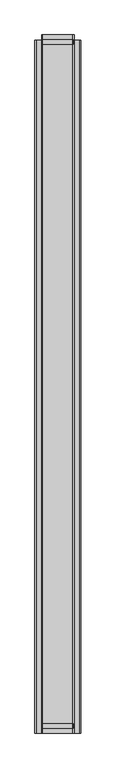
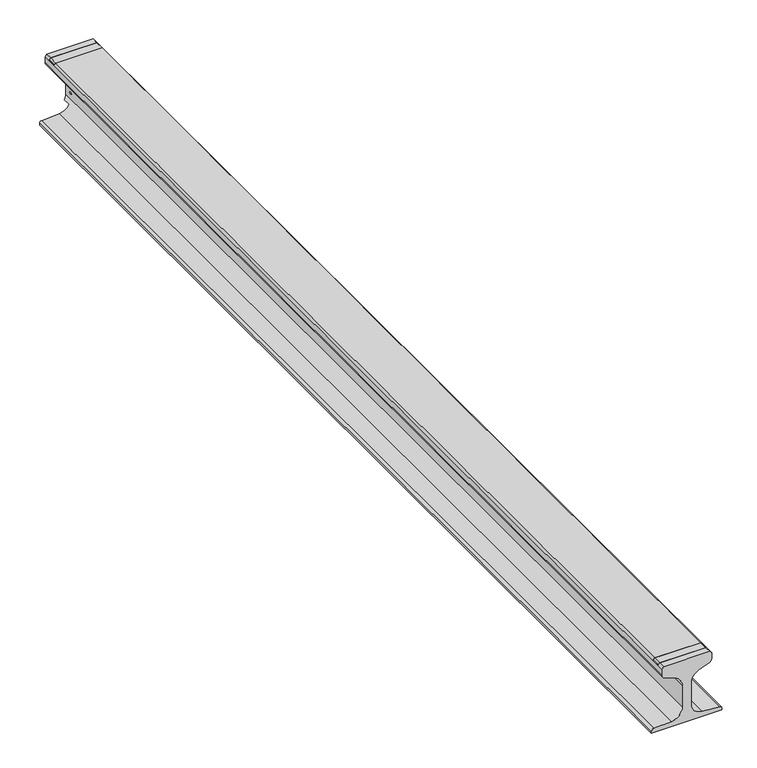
"""IFC4 building model written with IfcOpenShell, lengths in millimetres: proxy geometry, MTS-45S1S3.sat."""

from ifc_helpers import new_model, si_unit, frame, origin, place, context, project, spatial, polyline, circle_curve, outline, extrude, source, transform, mapped, element, save
from ifc_brep_helpers import plane_surface, cylinder_surface, revolved_surface, advanced_brep


def generic_models_01ca76c9(model_context):
    return source(origin(), model_context, "Body", "SolidModel", [
        advanced_brep(
        [(-76.2, -139.7, -755.65), (76.2, -139.7, -755.65), (76.2, -139.7, -717.55), (-76.2, -139.7, -717.55), (425.45, -18402.3, -25.4), (425.45, -18249.9, -25.4), (-425.45, -18249.9, -25.4), (-425.45, -18402.3, -25.4), (400.05, -18402.3, 0.0), (-400.05, -18402.3, 0.0), (400.05, -18249.9, 0.0), (-400.05, -18249.9, 0.0), (425.45, -266.7, -25.4), (425.45, -114.3, -25.4), (-425.45, -114.3, -25.4), (-425.45, -266.7, -25.4), (400.05, -266.7, 0.0), (-400.05, -266.7, 0.0), (400.05, -114.3, 0.0), (-400.05, -114.3, 0.0), (400.05, -18516.6, 0.0), (431.8, -18516.6, -31.75), (431.8, 0.0, -31.75), (400.05, 0.0, 0.0), (-400.05, 0.0, 0.0), (-400.05, -18516.6, 0.0), (-431.8, 0.0, -31.75), (-431.8, -18516.6, -31.75), (573.7638502, -139.7, -1071.0168958), (609.6, -139.7, -1109.0495789), (609.6, -139.7, -1143.0), (-609.6, -139.7, -1143.0), (-609.6, -139.7, -1109.0495789), (-573.7638502, -139.7, -1071.0168958), (-267.3261324, -139.7, -1052.7765555), (-97.1511979, -139.7, -939.8), (97.1511979, -139.7, -939.8), (267.3261324, -139.7, -1052.7765555), (97.1511979, 0.0, -939.8), (-97.1511979, 0.0, -939.8), (609.6, -18516.6, -1109.0495789), (609.6, -18516.6, -1143.0), (573.7638502, -18516.6, -1071.0168958), (267.3261324, -18516.6, -1052.7765555), (76.2, 0.0, -849.9355791), (76.2, -18516.6, -849.9355791), (-76.2, 0.0, -849.9355791), (-76.2, 0.0, -461.4926951), (-208.0517167, 0.0, -271.2306062), (-390.5963385, 0.0, -202.776373), (-431.8, 0.0, -143.3194703), (431.8, 0.0, -143.3194703), (390.5963385, 0.0, -202.776373), (208.0517167, 0.0, -271.2306062), (76.2, 0.0, -461.4926951), (431.8, -18516.6, -143.3194703), (390.5963385, -18516.6, -202.776373), (208.0517167, -18516.6, -271.2306062), (76.2, -18516.6, -461.4926951), (-609.6, -18516.6, -1143.0), (-609.6, -18516.6, -1109.0495789), (-573.7638502, -18516.6, -1071.0168958), (-267.3261324, -18516.6, -1052.7765555), (-76.2, -18516.6, -849.9355791), (-76.2, -18516.6, -461.4926951), (-208.0517167, -18516.6, -271.2306062), (-390.5963385, -18516.6, -202.776373), (-431.8, -18516.6, -143.3194703)],
        [
            (0, 1),
            (1, 2, circle_curve(frame((76.2, -139.7, -736.6), z_axis=(1.0, 0.0, 0.0), x_axis=(0.0, 0.0, -1.0)), 19.05)),
            (2, 3),
            (3, 0, circle_curve(frame((-76.2, -139.7, -736.6), z_axis=(-1.0, 0.0, 0.0), x_axis=(0.0, 0.0, -1.0)), 19.05)),
            (4, 5),
            (5, 6),
            (6, 7),
            (7, 4),
            (8, 4),
            (7, 9),
            (9, 8),
            (5, 10),
            (10, 11),
            (11, 6),
            (12, 13),
            (13, 14),
            (14, 15),
            (15, 12),
            (16, 12),
            (15, 17),
            (17, 16),
            (13, 18),
            (18, 19),
            (19, 14),
            (8, 20),
            (20, 21),
            (21, 22),
            (22, 23),
            (23, 18),
            (16, 10),
            (23, 24),
            (24, 19),
            (9, 25),
            (25, 20),
            (11, 17),
            (24, 26),
            (26, 27),
            (27, 25),
            (28, 29, circle_curve(frame((571.5, -139.7, -1109.0495789), z_axis=(0.0, 1.0, 0.0), x_axis=(0.059418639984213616, 0.0, 0.9982331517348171)), 38.1)),
            (29, 30),
            (30, 31),
            (31, 32),
            (32, 33, circle_curve(frame((-571.5, -139.7, -1109.0495789), z_axis=(0.0, 1.0, 0.0), x_axis=(-1.0, 0.0, 0.0)), 38.1)),
            (33, 34),
            (34, 35, circle_curve(frame((-279.4, -139.7, -849.9355791), z_axis=(0.0, -1.0, 0.0), x_axis=(-1.0, 0.0, 0.0)), 203.2)),
            (35, 36),
            (36, 37, circle_curve(frame((279.4, -139.7, -849.9355791), z_axis=(0.0, -1.0, 0.0), x_axis=(0.05941863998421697, 0.0, 0.9982331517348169)), 203.2)),
            (37, 28),
            (38, 36),
            (35, 39),
            (39, 38),
            (29, 40),
            (40, 41),
            (41, 30),
            (28, 42),
            (42, 40, circle_curve(frame((571.5, -18516.6, -1109.0495789), z_axis=(0.0, 1.0, 0.0), x_axis=(0.059418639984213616, 0.0, 0.9982331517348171)), 38.1)),
            (37, 43),
            (43, 42),
            (38, 44, circle_curve(frame((279.4, 0.0, -849.9355791), z_axis=(0.0, 1.0, 0.0), x_axis=(0.05941863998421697, 0.0, 0.9982331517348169)), 203.2)),
            (44, 45),
            (45, 43, circle_curve(frame((279.4, -18516.6, -849.9355791), z_axis=(0.0, -1.0, 0.0), x_axis=(0.05941863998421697, 0.0, 0.9982331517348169)), 203.2)),
            (39, 46, circle_curve(frame((-279.4, 0.0, -849.9355791), z_axis=(0.0, -1.0, 0.0), x_axis=(-1.0, 0.0, 0.0)), 203.2)),
            (46, 47),
            (47, 48, circle_curve(frame((-279.4, 0.0, -461.4926951), z_axis=(0.0, -1.0, 0.0), x_axis=(-0.3511234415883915, 0.0, -0.9363291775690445)), 203.2)),
            (48, 49),
            (49, 50, circle_curve(frame((-368.3, 0.0, -143.3194703), z_axis=(0.0, 1.0, 0.0), x_axis=(-0.35112344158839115, 0.0, -0.9363291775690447)), 63.5)),
            (50, 26),
            (22, 51),
            (51, 52, circle_curve(frame((368.3, 0.0, -143.3194703), z_axis=(0.0, 1.0, 0.0), x_axis=(1.0, 0.0, 0.0)), 63.5)),
            (52, 53),
            (53, 54, circle_curve(frame((279.4, 0.0, -461.4926951), z_axis=(0.0, -1.0, 0.0), x_axis=(1.0, 0.0, 0.0)), 203.2)),
            (54, 44),
            (0, 3, circle_curve(frame((-76.2, -139.7, -736.6), z_axis=(-1.0, 0.0, 0.0), x_axis=(0.0, 0.0, -1.0)), 19.05)),
            (2, 1, circle_curve(frame((76.2, -139.7, -736.6), z_axis=(1.0, 0.0, 0.0), x_axis=(0.0, 0.0, -1.0)), 19.05)),
            (21, 55),
            (55, 51),
            (55, 56, circle_curve(frame((368.3, -18516.6, -143.3194703), z_axis=(0.0, 1.0, 0.0), x_axis=(1.0, 0.0, 0.0)), 63.5)),
            (56, 52),
            (56, 57),
            (57, 53),
            (57, 58, circle_curve(frame((279.4, -18516.6, -461.4926951), z_axis=(0.0, -1.0, 0.0), x_axis=(1.0, 0.0, 0.0)), 203.2)),
            (58, 54),
            (58, 45),
            (41, 59),
            (59, 31),
            (59, 60),
            (60, 32),
            (60, 61, circle_curve(frame((-571.5, -18516.6, -1109.0495789), z_axis=(0.0, 1.0, 0.0), x_axis=(-1.0, 0.0, 0.0)), 38.1)),
            (61, 33),
            (61, 62),
            (62, 34),
            (62, 63, circle_curve(frame((-279.4, -18516.6, -849.9355791), z_axis=(0.0, -1.0, 0.0), x_axis=(-1.0, 0.0, 0.0)), 203.2)),
            (63, 46),
            (63, 64),
            (64, 47),
            (64, 65, circle_curve(frame((-279.4, -18516.6, -461.4926951), z_axis=(0.0, -1.0, 0.0), x_axis=(-0.3511234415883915, 0.0, -0.9363291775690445)), 203.2)),
            (65, 48),
            (65, 66),
            (66, 49),
            (66, 67, circle_curve(frame((-368.3, -18516.6, -143.3194703), z_axis=(0.0, 1.0, 0.0), x_axis=(-0.35112344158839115, 0.0, -0.9363291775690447)), 63.5)),
            (67, 50),
            (67, 27),
        ],
        [
            revolved_surface(polyline([(76.20000000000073, -139.7, -755.65), (-76.20000000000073, -139.7, -755.65)]), (-18515.6630911, -139.7, -736.6), (1.0, 0.0, 0.0)),
            plane_surface(frame((431.8, -18249.9, -25.4), z_axis=(0.0, 0.0, 1.0), x_axis=(0.0, -1.0, 0.0))),
            plane_surface(frame((431.8, -18402.3, -25.4), z_axis=(0.0, 1.0, 0.0), x_axis=(0.0, 0.0, 1.0))),
            plane_surface(frame((431.8, -18249.9, 0.0), z_axis=(0.0, -1.0, 0.0), x_axis=(0.0, 0.0, -1.0))),
            plane_surface(frame((431.8, -114.3, -25.4), z_axis=(0.0, 0.0, 1.0), x_axis=(0.0, -1.0, 0.0))),
            plane_surface(frame((431.8, -266.7, -25.4), z_axis=(0.0, 1.0, 0.0), x_axis=(0.0, 0.0, 1.0))),
            plane_surface(frame((431.8, -114.3, 0.0), z_axis=(0.0, -1.0, 0.0), x_axis=(0.0, 0.0, -1.0))),
            plane_surface(frame((431.8, 0.0, -31.75), z_axis=(0.7071067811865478, 0.0, 0.7071067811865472), x_axis=(-0.7071067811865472, 0.0, 0.7071067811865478))),
            plane_surface(frame((400.05, 0.0, 0.0), z_axis=(0.0, 0.0, 1.0), x_axis=(-1.0, 0.0, 0.0))),
            plane_surface(frame((-400.05, 0.0, 0.0), z_axis=(-0.7071067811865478, 0.0, 0.7071067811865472), x_axis=(-0.7071067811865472, 0.0, -0.7071067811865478))),
            plane_surface(frame((0.0, -139.7, -1041.4), z_axis=(0.0, 1.0, 0.0), x_axis=(0.0, 0.0, -1.0))),
            plane_surface(frame((609.6, 0.0, -939.8), z_axis=(0.0, 0.0, -1.0), x_axis=(-1.0, 0.0, 0.0))),
            plane_surface(frame((609.6, 0.0, -1143.0), z_axis=(1.0, 0.0, 0.0), x_axis=(0.0, 0.0, 1.0))),
            cylinder_surface(frame((571.5, 0.0, -1109.0495789), z_axis=(0.0, -0.9999999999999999, 0.0), x_axis=(0.059418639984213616, 0.0, 0.9982331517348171)), 38.1),
            plane_surface(frame((573.7638502, 0.0, -1071.0168958), z_axis=(0.05941863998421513, 0.0, 0.9982331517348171), x_axis=(-0.9982331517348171, 0.0, 0.05941863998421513))),
            revolved_surface(polyline([(291.47386764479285, -18516.59999999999, -647.0946026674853), (291.47386764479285, 0.0, -647.0946026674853)]), (279.4, 0.0, -849.9355791), (0.0, -0.9999999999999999, 0.0)),
            plane_surface(frame((0.0, 0.0, -571.5), z_axis=(0.0, 1.0, 0.0), x_axis=(0.0, 0.0, 1.0))),
            plane_surface(frame((431.8, 0.0, -143.3194703), z_axis=(1.0, 0.0, 0.0), x_axis=(0.0, 0.0, 1.0))),
            cylinder_surface(frame((368.3, 0.0, -143.3194703), z_axis=(0.0, -1.0, 0.0), x_axis=(1.0, 0.0, 0.0)), 63.5),
            plane_surface(frame((208.0517167, 0.0, -271.2306062), z_axis=(0.35112344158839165, 0.0, -0.9363291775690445), x_axis=(0.9363291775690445, 0.0, 0.35112344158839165))),
            revolved_surface(polyline([(482.59999999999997, -18516.6, -461.4926951), (482.59999999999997, 0.0, -461.4926951)]), (279.4, 0.0, -461.4926951), (0.0, -1.0, 0.0)),
            plane_surface(frame((76.2, 0.0, -849.9355791), z_axis=(1.0, 0.0, 0.0), x_axis=(0.0, 0.0, 1.0))),
            plane_surface(frame((-609.6, 0.0, -1143.0), z_axis=(0.0, 0.0, -1.0), x_axis=(1.0, 0.0, 0.0))),
            plane_surface(frame((-609.6, 0.0, -1109.0495789), z_axis=(-1.0, 0.0, 0.0), x_axis=(0.0, 0.0, -1.0))),
            cylinder_surface(frame((-571.5, 0.0, -1109.0495789), z_axis=(0.0, -1.0, 0.0), x_axis=(-1.0, 0.0, 0.0)), 38.1),
            plane_surface(frame((-267.3261324, 0.0, -1052.7765555), z_axis=(-0.05941863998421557, 0.0, 0.9982331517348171), x_axis=(-0.9982331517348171, 0.0, -0.05941863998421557))),
            revolved_surface(polyline([(-482.59999999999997, -18516.6, -849.9355791), (-482.59999999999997, 0.0, -849.9355791)]), (-279.4, 0.0, -849.9355791), (0.0, -1.0, 0.0)),
            plane_surface(frame((-76.2, 0.0, -461.4926951), z_axis=(-1.0, 0.0, 0.0), x_axis=(0.0, 0.0, -1.0))),
            revolved_surface(polyline([(-350.7482833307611, -18516.59999999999, -651.7547839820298), (-350.7482833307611, 0.0, -651.7547839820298)]), (-279.4, 0.0, -461.4926951), (0.0, -0.9999999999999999, 0.0)),
            plane_surface(frame((-390.5963385, 0.0, -202.776373), z_axis=(-0.35112344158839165, 0.0, -0.9363291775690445), x_axis=(0.9363291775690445, 0.0, -0.35112344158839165))),
            cylinder_surface(frame((-368.3, 0.0, -143.3194703), z_axis=(0.0, -0.9999999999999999, 0.0), x_axis=(-0.35112344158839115, 0.0, -0.9363291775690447)), 63.5),
            plane_surface(frame((-431.8, 0.0, -31.75), z_axis=(-1.0, 0.0, 0.0), x_axis=(0.0, 0.0, -1.0))),
            plane_surface(frame((0.0, -18516.6, -571.5), z_axis=(0.0, -1.0, 0.0), x_axis=(0.0, 0.0, 1.0))),
        ],
        [
            (0, [[1, 2, 3, 4]]),
            (1, [[5, 6, 7, 8]]),
            (2, [[9, -8, 10, 11]]),
            (3, [[12, 13, 14, -6]]),
            (4, [[15, 16, 17, 18]]),
            (5, [[19, -18, 20, 21]]),
            (6, [[22, 23, 24, -16]]),
            (7, [[-12, -5, -9, 25, 26, 27, 28, 29, -22, -15, -19, 30]]),
            (8, [[-23, -29, 31, 32]]),
            (8, [[-11, 33, 34, -25]]),
            (9, [[-10, -7, -14, 35, -20, -17, -24, -32, 36, 37, 38, -33]]),
            (10, [[39, 40, 41, 42, 43, 44, 45, 46, 47, 48]]),
            (11, [[49, -46, 50, 51]]),
            (12, [[-40, 52, 53, 54]]),
            (13, [[-39, 55, 56, -52]]),
            (14, [[-48, 57, 58, -55]]),
            (15, [[-47, -49, 59, 60, 61, -57]]),
            (16, [[-51, 62, 63, 64, 65, 66, 67, -36, -31, -28, 68, 69, 70, 71, 72, -59]]),
            (0, [[-1, 73, -3, 74]]),
            (17, [[-68, -27, 75, 76]]),
            (18, [[-69, -76, 77, 78]]),
            (19, [[-70, -78, 79, 80]]),
            (20, [[-71, -80, 81, 82]]),
            (21, [[-72, -82, 83, -60], [-74, -2]]),
            (22, [[-41, -54, 84, 85]]),
            (23, [[-42, -85, 86, 87]]),
            (24, [[-43, -87, 88, 89]]),
            (25, [[-44, -89, 90, 91]]),
            (26, [[-45, -91, 92, 93, -62, -50]]),
            (27, [[-63, -93, 94, 95], [-73, -4]]),
            (28, [[-64, -95, 96, 97]]),
            (29, [[-65, -97, 98, 99]]),
            (30, [[-66, -99, 100, 101]]),
            (31, [[-67, -101, 102, -37]]),
            (8, [[-13, -30, -21, -35]]),
            (32, [[-34, -38, -102, -100, -98, -96, -94, -92, -90, -88, -86, -84, -53, -56, -58, -61, -83, -81, -79, -77, -75, -26]]),
        ],
    ),
        extrude(outline(polyline([(-25.4, 425.45), (0.0, 400.05), (0.0, -400.05), (-25.4, -425.45), (-25.4, 425.45)])), frame((0.0, -266.7, 0.0), z_axis=(0.0, 1.0, 0.0), x_axis=(0.0, 0.0, 1.0)), (0.0, 0.0, 1.0), 152.4),
        extrude(outline(polyline([(0.0, -400.05), (-25.4, -425.45), (-25.4, 425.45), (0.0, 400.05), (0.0, -400.05)])), frame((0.0, -18402.3, 0.0), z_axis=(0.0, 1.0, 0.0), x_axis=(0.0, 0.0, 1.0)), (0.0, 0.0, 1.0), 152.4),
    ])


if __name__ == "__main__":
    model = new_model("IFC4")
    model_context = context("Model", 3, world=origin())
    ifc_project = project(units=[si_unit("LENGTHUNIT", "METRE", prefix="MILLI")], contexts=[model_context])
    site = spatial("IfcSite", under=ifc_project)
    building = spatial("IfcBuilding", under=site)
    placement = place(None, origin())
    generic_models_shape = generic_models_01ca76c9(model_context)
    element("IfcBuildingElementProxy", 1, Name="MTS-45S1S3.sat", ObjectType="MTS-45S1S3.sat", at=placement, inside=building, context=model_context, shape_type="MappedRepresentation", body=[
        mapped(generic_models_shape, transform((0.0, 0.0, 0.0), x_axis=(1.0, 0.0, 0.0), y_axis=(0.0, 1.0, 0.0), z_axis=(0.0, 0.0, 1.0))),
    ])
    save(model, "model.ifc")
